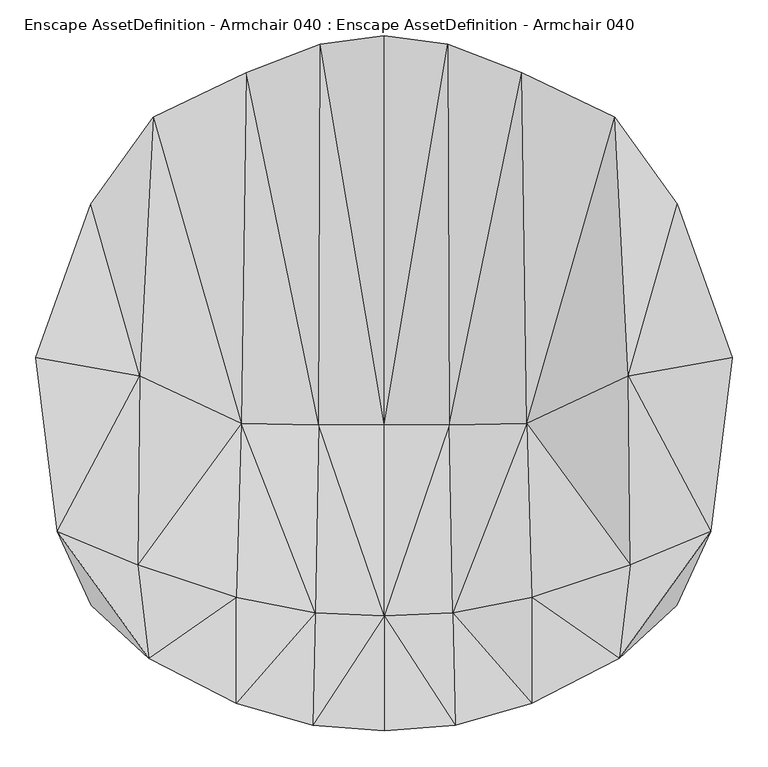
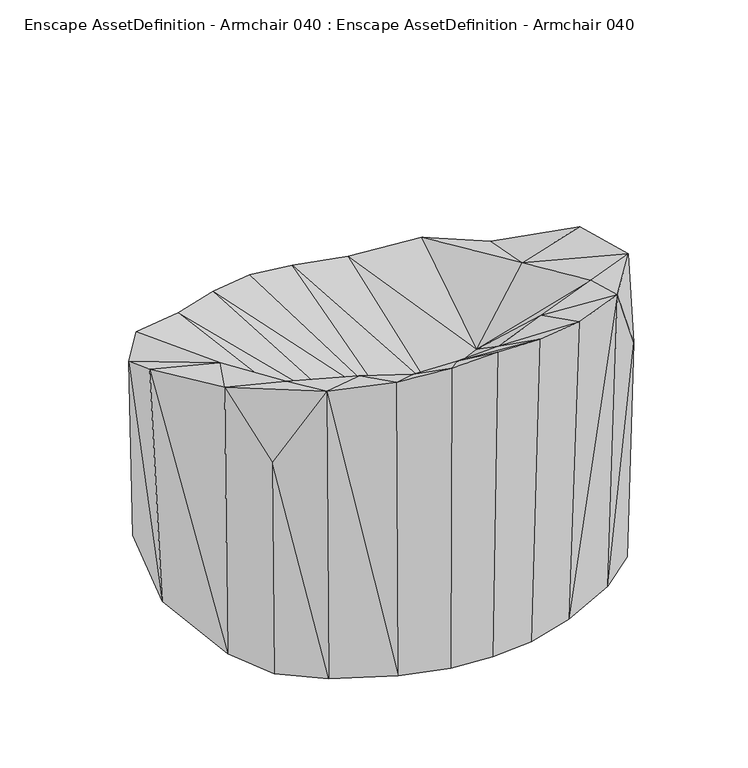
"""IFC4 building model written with IfcOpenShell, lengths in millimetres: geographic element geometry, Enscape AssetDefinition - Armchair 040 : Enscape AssetDefinition - Armchair 040."""

from ifc_helpers import new_model, si_unit, origin, place, context, project, spatial, triangles, source, transform, mapped, element, save


def enscape_assetdefinition_armchair_040_enscape_assetdefinition_2e11cbc6(model_context):
    return source(origin(), model_context, "Body", "Tessellation", [
        triangles([(91.112916, -58.2758806, 367.5471874), (88.9387846, 471.6473376, 334.5366297), (191.4430384, 432.0617452, 343.068449), (190.0643616, 429.7259866, 0.0), (315.5635872, 364.6123375, 0.0), (198.8997235, -55.9817437, 415.6219783), (321.0792389, 370.2499658, 380.9013868), (339.8429918, 9.9839166, 531.7958101), (454.3832388, -206.2036926, 644.4932917), (407.6564398, 249.6673551, 413.6114542), (441.7560662, -195.5591934, 0.0), (484.190213, 35.6737082, 551.3807702), (342.8542179, -252.7480355, 648.3505417), (327.32784, -382.6044079, 698.2493128), (191.9191358, -427.7819555, 0.0), (407.4005324, -308.8636691, 511.6871538), (205.5193231, -445.2830675, 714.5611805), (397.8659037, -300.102685, 0.0), (464.153936, 21.9297048, 0.0), (-90.6070694, -456.3054325, 0.0), (314.6401697, -368.2791558, 0.0), (95.6129139, -319.2601639, 618.7250971), (98.9504645, -476.0630565, 729.4537308), (205.2296968, -298.2925847, 640.6984652), (0.0, -462.8208778, 0.0), (0.0, -483.4780835, 736.8787863), (90.6070694, -456.3054325, 0.0), (-98.9504645, -476.0630565, 729.4537308), (-205.5193231, -445.2830675, 714.5611805), (-205.2296968, -298.2925847, 640.6984652), (-91.112916, -58.2758806, 367.5471874), (-95.6129139, -319.2601639, 618.7250971), (-198.8997235, -55.9817437, 415.6219783), (0.0, -323.6004876, 618.7250971), (-191.4430384, 432.0617452, 343.068449), (-315.5635872, 364.6123375, 0.0), (0.0, -57.581587, 352.5881804), (0.0, 483.4780835, 335.2398208), (-88.9387846, 471.6473376, 334.5366297), (-190.0643616, 429.7259866, 0.0), (-88.9387846, 470.8171557, 0.0), (88.9387846, 470.8171557, 0.0), (0.0, 482.9513715, 0.0), (400.8920634, 245.9062656, 0.0), (-314.6401697, -368.2791558, 0.0), (-191.9191358, -427.7819555, 0.0), (-397.8659037, -300.102685, 0.0), (-441.7560662, -195.5591934, 0.0), (-407.4005324, -308.8636691, 511.6871538), (-454.3832388, -206.2036926, 644.4932917), (-327.32784, -382.6044079, 698.2493128), (-342.8542179, -252.7480355, 648.3505417), (-484.190213, 35.6737082, 551.3807702), (-339.8429918, 9.9839166, 531.7958101), (-464.153936, 21.9297048, 0.0), (-407.6564398, 249.6673551, 413.6114542), (-400.8920634, 245.9062656, 0.0), (-321.0792389, 370.2499658, 380.9013868)], [[57, 40, 48], [55, 57, 48], [36, 40, 57], [36, 57, 58], [57, 55, 56], [58, 57, 56], [56, 55, 53], [48, 53, 55], [58, 56, 54], [54, 56, 53], [52, 54, 50], [50, 53, 48], [50, 54, 53], [52, 50, 51], [50, 48, 49], [51, 50, 49], [49, 48, 47], [47, 48, 45], [51, 49, 45], [45, 46, 51], [45, 49, 47], [48, 40, 20], [45, 48, 20], [46, 45, 20], [20, 40, 44], [4, 44, 40], [43, 4, 40], [41, 43, 40], [42, 4, 43], [42, 43, 2], [2, 4, 42], [37, 34, 1], [2, 37, 1], [38, 37, 2], [2, 43, 38], [41, 39, 43], [41, 40, 39], [43, 39, 38], [39, 37, 38], [58, 35, 36], [36, 35, 40], [39, 40, 35], [31, 37, 39], [39, 35, 31], [31, 34, 37], [54, 52, 33], [54, 33, 58], [58, 33, 35], [31, 35, 33], [52, 51, 30], [33, 52, 30], [31, 33, 32], [32, 34, 31], [32, 33, 30], [29, 32, 30], [20, 29, 46], [30, 51, 29], [51, 46, 29], [28, 32, 29], [32, 28, 34], [28, 29, 20], [34, 28, 26], [20, 25, 28], [28, 25, 26], [25, 20, 27], [26, 25, 23], [23, 34, 26], [23, 25, 27], [22, 34, 23], [22, 6, 1], [1, 34, 22], [24, 6, 22], [23, 17, 22], [22, 17, 24], [27, 17, 23], [15, 17, 27], [21, 20, 44], [27, 20, 21], [15, 27, 21], [11, 21, 44], [19, 11, 44], [18, 21, 11], [18, 16, 21], [11, 16, 18], [17, 15, 14], [14, 24, 17], [21, 16, 14], [14, 15, 21], [13, 24, 14], [13, 6, 24], [9, 16, 11], [16, 9, 14], [14, 9, 13], [19, 12, 11], [11, 12, 9], [12, 19, 10], [10, 19, 44], [13, 9, 8], [8, 6, 13], [12, 10, 8], [8, 9, 12], [10, 44, 7], [8, 10, 7], [7, 6, 8], [5, 44, 4], [7, 44, 5], [4, 3, 5], [3, 6, 7], [3, 4, 2], [6, 3, 1], [5, 3, 7], [1, 3, 2]]),
    ])


if __name__ == "__main__":
    model = new_model("IFC4")
    model_context = context("Model", 3, world=origin())
    ifc_project = project(units=[si_unit("LENGTHUNIT", "METRE", prefix="MILLI")], contexts=[model_context])
    site = spatial("IfcSite", under=ifc_project)
    building = spatial("IfcBuilding", under=site)
    placement = place(None, origin())
    enscape_assetdefinition_armchair_040_enscape_assetdefinition_shape = enscape_assetdefinition_armchair_040_enscape_assetdefinition_2e11cbc6(model_context)
    element("IfcGeographicElement", 1, ObjectType="Enscape AssetDefinition - Armchair 040 : Enscape AssetDefinition - Armchair 040", at=placement, inside=building, context=model_context, shape_type="MappedRepresentation", body=[
        mapped(enscape_assetdefinition_armchair_040_enscape_assetdefinition_shape, transform((0.0, 0.0, 0.0), x_axis=(1.0, 0.0, 0.0), y_axis=(0.0, 1.0, 0.0), z_axis=(0.0, 0.0, 1.0))),
    ])
    save(model, "model.ifc")
